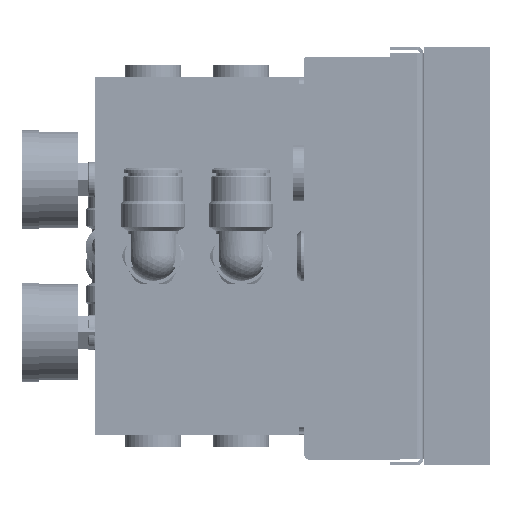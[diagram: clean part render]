
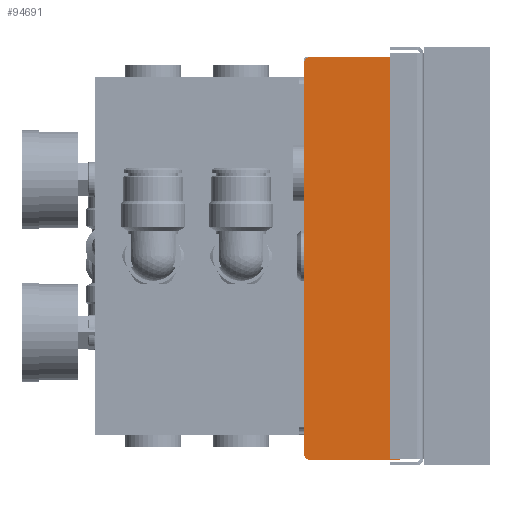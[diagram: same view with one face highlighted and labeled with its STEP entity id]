
A CAD part, left-side view. The second image highlights one B-rep face of the part: STEP entity #94691.
In plain terms, the highlighted planar face has unit normal (-1, 0, 0).
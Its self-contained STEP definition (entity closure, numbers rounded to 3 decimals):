
#161 = CARTESIAN_POINT ( 'NONE',  ( -623.638, 39.107, 54.959 ) ) ;
#707 = EDGE_CURVE ( 'NONE', #58387, #89974, #20241, .T. ) ;
#2081 = LINE ( 'NONE', #32458, #80510 ) ;
#5242 = PLANE ( 'NONE',  #89914 ) ;
#5270 = CARTESIAN_POINT ( 'NONE',  ( -623.638, 11.107, -64.541 ) ) ;
#6939 = LINE ( 'NONE', #45166, #66976 ) ;
#7431 = ORIENTED_EDGE ( 'NONE', *, *, #99820, .T. ) ;
#7698 = LINE ( 'NONE', #61613, #67709 ) ;
#9191 = DIRECTION ( 'NONE',  ( 0., 1., 0. ) ) ;
#9495 = CARTESIAN_POINT ( 'NONE',  ( -623.638, 41.107, -64.541 ) ) ;
#9731 = CARTESIAN_POINT ( 'NONE',  ( -623.638, 39.107, -64.541 ) ) ;
#11394 = CARTESIAN_POINT ( 'NONE',  ( -623.638, 41.107, 54.959 ) ) ;
#12076 = DIRECTION ( 'NONE',  ( -1., 0., 0. ) ) ;
#12713 = EDGE_CURVE ( 'NONE', #94618, #72708, #7698, .T. ) ;
#12830 = EDGE_LOOP ( 'NONE', ( #57028, #54158, #75202, #20583, #90913, #97116, #7431, #71881 ) ) ;
#13086 = VERTEX_POINT ( 'NONE', #9495 ) ;
#17612 = DIRECTION ( 'NONE',  ( 0., 0., 1. ) ) ;
#17716 = CARTESIAN_POINT ( 'NONE',  ( -623.638, 13.107, 54.959 ) ) ;
#20241 = CIRCLE ( 'NONE', #41570, 2. ) ;
#20583 = ORIENTED_EDGE ( 'NONE', *, *, #707, .T. ) ;
#20615 = EDGE_CURVE ( 'NONE', #91916, #58387, #6939, .T. ) ;
#21532 = DIRECTION ( 'NONE',  ( 0., 0., 1. ) ) ;
#23085 = FACE_OUTER_BOUND ( 'NONE', #12830, .T. ) ;
#25621 = AXIS2_PLACEMENT_3D ( 'NONE', #9731, #64541, #17612 ) ;
#32458 = CARTESIAN_POINT ( 'NONE',  ( -623.638, 41.107, 54.959 ) ) ;
#35249 = DIRECTION ( 'NONE',  ( -1., 0., 0. ) ) ;
#37925 = CARTESIAN_POINT ( 'NONE',  ( -623.638, 13.107, 52.959 ) ) ;
#39665 = LINE ( 'NONE', #11394, #99729 ) ;
#41570 = AXIS2_PLACEMENT_3D ( 'NONE', #37925, #84819, #45832 ) ;
#43818 = EDGE_CURVE ( 'NONE', #13086, #94618, #72067, .T. ) ;
#44644 = DIRECTION ( 'NONE',  ( 1., 0., 0. ) ) ;
#45166 = CARTESIAN_POINT ( 'NONE',  ( -623.638, 11.107, 54.959 ) ) ;
#45832 = DIRECTION ( 'NONE',  ( 0., 0., 1. ) ) ;
#48470 = VERTEX_POINT ( 'NONE', #161 ) ;
#52641 = AXIS2_PLACEMENT_3D ( 'NONE', #59063, #12076, #66885 ) ;
#54158 = ORIENTED_EDGE ( 'NONE', *, *, #66830, .T. ) ;
#54854 = EDGE_CURVE ( 'NONE', #89974, #48470, #2081, .T. ) ;
#55991 = CARTESIAN_POINT ( 'NONE',  ( -623.638, 13.107, -66.541 ) ) ;
#56239 = CIRCLE ( 'NONE', #52641, 2. ) ;
#57028 = ORIENTED_EDGE ( 'NONE', *, *, #12713, .T. ) ;
#58387 = VERTEX_POINT ( 'NONE', #97470 ) ;
#59063 = CARTESIAN_POINT ( 'NONE',  ( -623.638, 13.107, -64.541 ) ) ;
#61613 = CARTESIAN_POINT ( 'NONE',  ( -623.638, 41.107, -66.541 ) ) ;
#62727 = CARTESIAN_POINT ( 'NONE',  ( -623.638, 41.107, 52.959 ) ) ;
#64541 = DIRECTION ( 'NONE',  ( -1., 0., 0. ) ) ;
#66150 = DIRECTION ( 'NONE',  ( 0., 0., -1. ) ) ;
#66830 = EDGE_CURVE ( 'NONE', #72708, #91916, #56239, .T. ) ;
#66885 = DIRECTION ( 'NONE',  ( 0., 0., 1. ) ) ;
#66976 = VECTOR ( 'NONE', #21532, 1000. ) ;
#67709 = VECTOR ( 'NONE', #69428, 1000. ) ;
#69428 = DIRECTION ( 'NONE',  ( 0., -1., 0. ) ) ;
#71447 = VERTEX_POINT ( 'NONE', #62727 ) ;
#71881 = ORIENTED_EDGE ( 'NONE', *, *, #43818, .T. ) ;
#72067 = CIRCLE ( 'NONE', #25621, 2. ) ;
#72347 = CIRCLE ( 'NONE', #89795, 2. ) ;
#72708 = VERTEX_POINT ( 'NONE', #55991 ) ;
#73575 = EDGE_CURVE ( 'NONE', #48470, #71447, #72347, .T. ) ;
#75202 = ORIENTED_EDGE ( 'NONE', *, *, #20615, .T. ) ;
#75450 = CARTESIAN_POINT ( 'NONE',  ( -623.638, 39.107, -66.541 ) ) ;
#80510 = VECTOR ( 'NONE', #9191, 1000. ) ;
#82143 = CARTESIAN_POINT ( 'NONE',  ( -623.638, 39.107, 52.959 ) ) ;
#84819 = DIRECTION ( 'NONE',  ( -1., 0., 0. ) ) ;
#89795 = AXIS2_PLACEMENT_3D ( 'NONE', #82143, #35249, #90030 ) ;
#89914 = AXIS2_PLACEMENT_3D ( 'NONE', #91500, #44644, #99449 ) ;
#89974 = VERTEX_POINT ( 'NONE', #17716 ) ;
#90030 = DIRECTION ( 'NONE',  ( 0., 0., 1. ) ) ;
#90913 = ORIENTED_EDGE ( 'NONE', *, *, #54854, .T. ) ;
#91500 = CARTESIAN_POINT ( 'NONE',  ( -623.638, 11.107, 54.959 ) ) ;
#91916 = VERTEX_POINT ( 'NONE', #5270 ) ;
#94618 = VERTEX_POINT ( 'NONE', #75450 ) ;
#94691 = ADVANCED_FACE ( 'NONE', ( #23085 ), #5242, .F. ) ;
#97116 = ORIENTED_EDGE ( 'NONE', *, *, #73575, .T. ) ;
#97470 = CARTESIAN_POINT ( 'NONE',  ( -623.638, 11.107, 52.959 ) ) ;
#99449 = DIRECTION ( 'NONE',  ( 0., 0., 1. ) ) ;
#99729 = VECTOR ( 'NONE', #66150, 1000. ) ;
#99820 = EDGE_CURVE ( 'NONE', #71447, #13086, #39665, .T. ) ;
